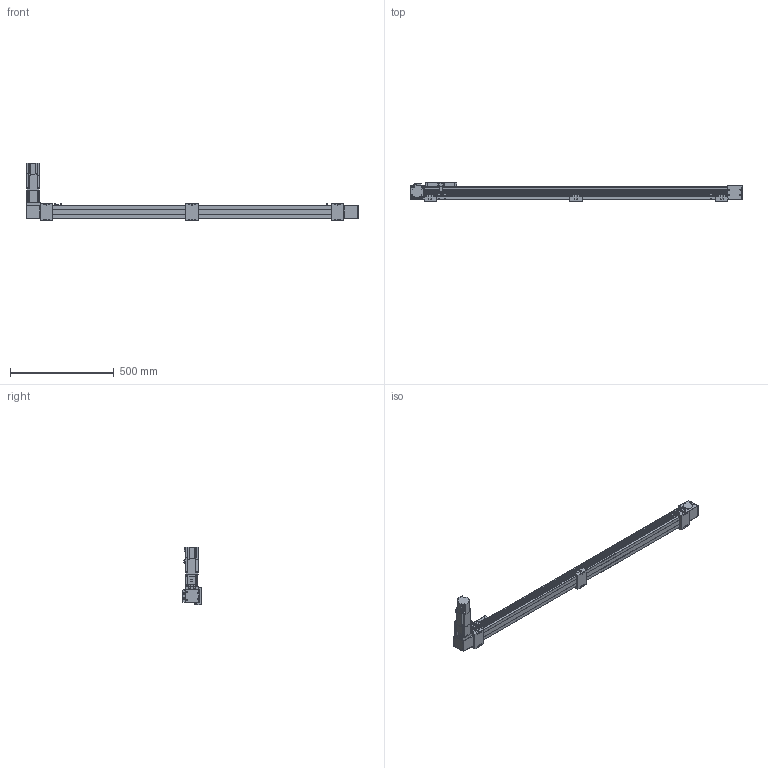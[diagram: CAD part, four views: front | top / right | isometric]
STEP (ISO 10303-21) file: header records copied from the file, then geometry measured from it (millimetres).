
FILE_DESCRIPTION(/* description */ ('STEP AP203'),/* implementation_level */ '2;1');
FILE_NAME(/* name */ 'SK60-P13-S1300-BL-T40-C1-N(0)',/* time_stamp */ '2023-04-06T03:37:01+02:00',/* author */ ('License CC BY-ND 4.0'),/* organization */ ('CADENAS'),/* preprocessor_version */ 'ST-DEVELOPER v19.3',/* originating_system */ 'PARTsolutions',/* authorisation */ ' ');
FILE_SCHEMA (('CONFIG_CONTROL_DESIGN'));
Length unit declared in the file: millimetre
Products named in the file (11): SK60-P13-S1300-BL-T40-C1-N(0); PSC140-sensor; SK60-S450_seat; SK60-S450-BL-C1_slider; SK60_body3; SK60_body6; SK60-BL_body2; T40-p1; SK60_body5; SK60_body4; SK60-S1300-BL-C1_body
Assembly tree (18 placements, depth 2):
  SK60-P13-S1300-BL-T40-C1-N(0)
    PSC140-sensor  x3
    SK60-S450_seat  x3
    SK60-S450-BL-C1_slider
    SK60_body3  x3
    SK60_body6  x2
    SK60-BL_body2  x2
    T40-p1
    SK60_body5
    SK60_body4
    SK60-S1300-BL-C1_body
Bounding box: 1600 x 90 x 278.2 mm (x, y, z)
Volume: 6033597.3 mm3; surface area: 786867 mm2
Topology: 18 solids, 22 shells, 878 faces, 2207 edges, 1458 vertices
Faces by surface type: plane 568, cylinder 282, cone 26, torus 2
Full cylindrical faces by diameter (mm): 2.8 x3, 3.3 x4, 4.2 x8, 4.5 x26, 4.6 x3, 4.917 x20, 5 x2, 5.478 x4, 5.5 x23, 6.5 x6, 8 x4, 8.5 x4, 9.988 x4, 10 x12, 13.556 x1, 14 x1, 14.586 x1, 19.692 x1, 38.432 x2, 43 x1, 44 x3, 47 x2, 50 x2
Entity records: 19379 total; most frequent: DIRECTION 3294, CARTESIAN_POINT 3290, ORIENTED_EDGE 3050, EDGE_CURVE 1525, AXIS2_PLACEMENT_3D 1101, LINE 1092, VECTOR 1092, VERTEX_POINT 1077
